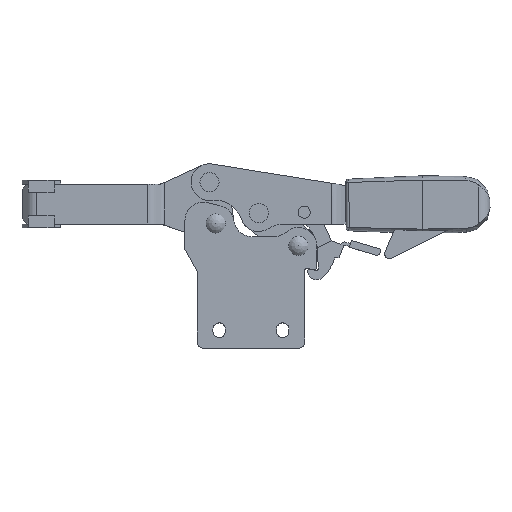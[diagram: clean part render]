
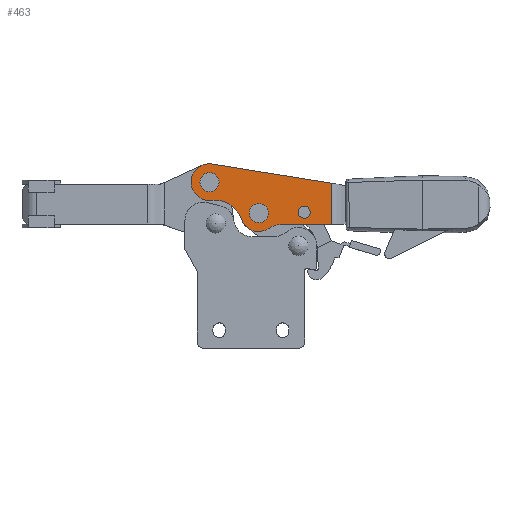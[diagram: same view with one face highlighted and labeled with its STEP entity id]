
A CAD part, top view. The second image highlights one B-rep face of the part: STEP entity #463.
In plain terms, the highlighted planar face has unit normal (0, 0, 1).
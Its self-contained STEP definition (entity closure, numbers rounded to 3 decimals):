
#463 = ADVANCED_FACE( '', ( #877, #878, #879, #880 ), #881, .T. );
#877 = FACE_OUTER_BOUND( '', #1522, .T. );
#878 = FACE_BOUND( '', #1523, .T. );
#879 = FACE_BOUND( '', #1524, .T. );
#880 = FACE_BOUND( '', #1525, .T. );
#881 = PLANE( '', #1526 );
#1522 = EDGE_LOOP( '', ( #2879, #2880, #2881, #2882, #2883, #2884, #2885 ) );
#1523 = EDGE_LOOP( '', ( #2886 ) );
#1524 = EDGE_LOOP( '', ( #2887 ) );
#1525 = EDGE_LOOP( '', ( #2888 ) );
#1526 = AXIS2_PLACEMENT_3D( '', #2889, #2890, #2891 );
#2879 = ORIENTED_EDGE( '', *, *, #4094, .F. );
#2880 = ORIENTED_EDGE( '', *, *, #4132, .T. );
#2881 = ORIENTED_EDGE( '', *, *, #4116, .T. );
#2882 = ORIENTED_EDGE( '', *, *, #4119, .F. );
#2883 = ORIENTED_EDGE( '', *, *, #4122, .T. );
#2884 = ORIENTED_EDGE( '', *, *, #4125, .F. );
#2885 = ORIENTED_EDGE( '', *, *, #4133, .T. );
#2886 = ORIENTED_EDGE( '', *, *, #4131, .F. );
#2887 = ORIENTED_EDGE( '', *, *, #4129, .F. );
#2888 = ORIENTED_EDGE( '', *, *, #4127, .F. );
#2889 = CARTESIAN_POINT( '', ( -4.023, 26.921, 9. ) );
#2890 = DIRECTION( '', ( 0., 0., 1. ) );
#2891 = DIRECTION( '', ( 1., 0., 0. ) );
#4094 = EDGE_CURVE( '', #4953, #4954, #4955, .F. );
#4116 = EDGE_CURVE( '', #4980, #4985, #4987, .T. );
#4119 = EDGE_CURVE( '', #4990, #4985, #4992, .T. );
#4122 = EDGE_CURVE( '', #4990, #4995, #4997, .T. );
#4125 = EDGE_CURVE( '', #5000, #4995, #5002, .T. );
#4127 = EDGE_CURVE( '', #5005, #5005, #5006, .T. );
#4129 = EDGE_CURVE( '', #5009, #5009, #5010, .T. );
#4131 = EDGE_CURVE( '', #5013, #5013, #5014, .T. );
#4132 = EDGE_CURVE( '', #4953, #4980, #5015, .T. );
#4133 = EDGE_CURVE( '', #5000, #4954, #5016, .T. );
#4953 = VERTEX_POINT( '', #6331 );
#4954 = VERTEX_POINT( '', #6332 );
#4955 = LINE( '', #6333, #6334 );
#4980 = VERTEX_POINT( '', #6431 );
#4985 = VERTEX_POINT( '', #6437 );
#4987 = CIRCLE( '', #6440, 12. );
#4990 = VERTEX_POINT( '', #6443 );
#4992 = CIRCLE( '', #6446, 18. );
#4995 = VERTEX_POINT( '', #6449 );
#4997 = CIRCLE( '', #6452, 12. );
#5000 = VERTEX_POINT( '', #6455 );
#5002 = CIRCLE( '', #6458, 12. );
#5005 = VERTEX_POINT( '', #6461 );
#5006 = CIRCLE( '', #6462, 4. );
#5009 = VERTEX_POINT( '', #6465 );
#5010 = CIRCLE( '', #6466, 6.25 );
#5013 = VERTEX_POINT( '', #6469 );
#5014 = CIRCLE( '', #6470, 6.25 );
#5015 = LINE( '', #6471, #6472 );
#5016 = LINE( '', #6473, #6474 );
#6331 = CARTESIAN_POINT( '', ( 75.498, 26.204, 9. ) );
#6332 = CARTESIAN_POINT( '', ( 75.641, -0.572, 9. ) );
#6333 = CARTESIAN_POINT( '', ( 75.909, -50.571, 9. ) );
#6334 = VECTOR( '', #7664, 1000. );
#6431 = CARTESIAN_POINT( '', ( -2.106, 38.767, 9. ) );
#6437 = CARTESIAN_POINT( '', ( -2.519, 15.016, 9. ) );
#6440 = AXIS2_PLACEMENT_3D( '', #7697, #7698, #7699 );
#6443 = CARTESIAN_POINT( '', ( 16.797, 2.902, 9. ) );
#6446 = AXIS2_PLACEMENT_3D( '', #7704, #7705, #7706 );
#6449 = CARTESIAN_POINT( '', ( 35.177, -3.01, 9. ) );
#6452 = AXIS2_PLACEMENT_3D( '', #7711, #7712, #7713 );
#6455 = CARTESIAN_POINT( '', ( 42.119, -0.752, 9. ) );
#6458 = AXIS2_PLACEMENT_3D( '', #7718, #7719, #7720 );
#6461 = CARTESIAN_POINT( '', ( 61.735, 7.332, 9. ) );
#6462 = AXIS2_PLACEMENT_3D( '', #7724, #7725, #7726 );
#6465 = CARTESIAN_POINT( '', ( 34.42, 6.732, 9. ) );
#6466 = AXIS2_PLACEMENT_3D( '', #7730, #7731, #7732 );
#6469 = CARTESIAN_POINT( '', ( 2.227, 26.921, 9. ) );
#6470 = AXIS2_PLACEMENT_3D( '', #7736, #7737, #7738 );
#6471 = CARTESIAN_POINT( '', ( 84.922, 24.678, 9. ) );
#6472 = VECTOR( '', #7739, 1000. );
#6473 = CARTESIAN_POINT( '', ( 42.119, -0.752, 9. ) );
#6474 = VECTOR( '', #7740, 1000. );
#7664 = DIRECTION( '', ( -0.005, 1., 0. ) );
#7697 = CARTESIAN_POINT( '', ( -4.023, 26.921, 9. ) );
#7698 = DIRECTION( '', ( 0., 0., 1. ) );
#7699 = DIRECTION( '', ( 1., 0., 0. ) );
#7704 = CARTESIAN_POINT( '', ( -0.261, -2.842, 9. ) );
#7705 = DIRECTION( '', ( 0., 0., 1. ) );
#7706 = DIRECTION( '', ( 1., 0., 0. ) );
#7711 = CARTESIAN_POINT( '', ( 28.17, 6.732, 9. ) );
#7712 = DIRECTION( '', ( 0., 0., 1. ) );
#7713 = DIRECTION( '', ( 1., 0., 0. ) );
#7718 = CARTESIAN_POINT( '', ( 42.184, -12.752, 9. ) );
#7719 = DIRECTION( '', ( 0., 0., 1. ) );
#7720 = DIRECTION( '', ( 1., 0., 0. ) );
#7724 = CARTESIAN_POINT( '', ( 57.735, 7.332, 9. ) );
#7725 = DIRECTION( '', ( 0., 0., 1. ) );
#7726 = DIRECTION( '', ( 1., 0., 0. ) );
#7730 = CARTESIAN_POINT( '', ( 28.17, 6.732, 9. ) );
#7731 = DIRECTION( '', ( 0., 0., 1. ) );
#7732 = DIRECTION( '', ( 1., 0., 0. ) );
#7736 = CARTESIAN_POINT( '', ( -4.023, 26.921, 9. ) );
#7737 = DIRECTION( '', ( 0., 0., 1. ) );
#7738 = DIRECTION( '', ( 1., 0., 0. ) );
#7739 = DIRECTION( '', ( -0.987, 0.16, 0. ) );
#7740 = DIRECTION( '', ( 1., 0.005, 0. ) );
